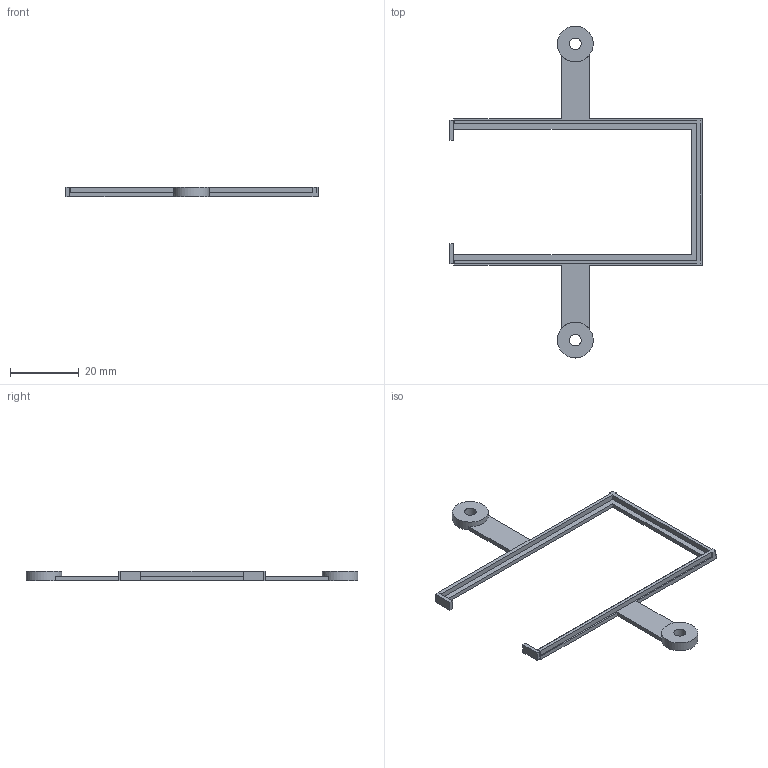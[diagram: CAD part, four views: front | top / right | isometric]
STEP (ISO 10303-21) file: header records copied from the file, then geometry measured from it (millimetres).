
FILE_DESCRIPTION(('Open CASCADE Model'),'2;1');
FILE_NAME('Open CASCADE Shape Model','2026-08-31T17:35:16',('Author'),( 'Open CASCADE'),'Open CASCADE STEP processor 7.8','Open CASCADE 7.8' ,'Unknown');
FILE_SCHEMA(('AUTOMOTIVE_DESIGN { 1 0 10303 214 1 1 1 1 }'));
Length unit declared in the file: millimetre
Products named in the file (1): Open CASCADE STEP translator 7.8 2
Bounding box: 73.2 x 96.4 x 2.82 mm (x, y, z)
Volume: 1776.9 mm3; surface area: 3365.8 mm2
Topology: 1 solids, 1 shells, 52 faces, 148 edges, 98 vertices
Faces by surface type: plane 48, cylinder 4
Full cylindrical faces by diameter (mm): 3.4 x2, 10.4 x2
Entity records: 3577 total; most frequent: CARTESIAN_POINT 682, DIRECTION 505, LINE 369, VECTOR 369, ORIENTED_EDGE 296, PCURVE 296, DEFINITIONAL_REPRESENTATION 296, EDGE_CURVE 148
